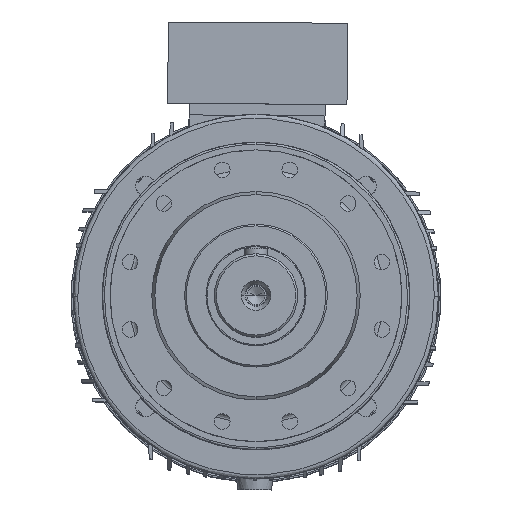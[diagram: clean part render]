
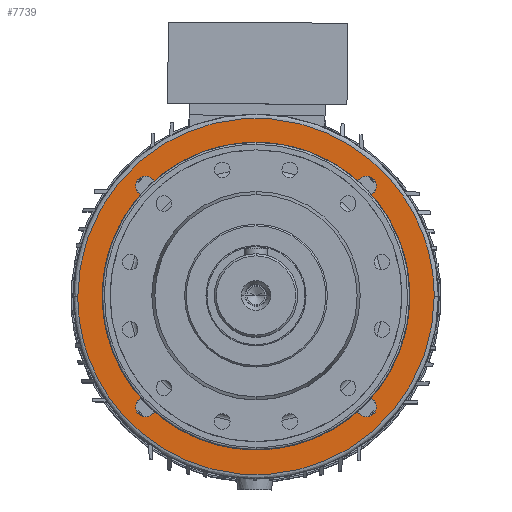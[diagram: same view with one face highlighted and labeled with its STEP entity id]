
A CAD part, top view. The second image highlights one B-rep face of the part: STEP entity #7739.
In plain terms, the highlighted planar face has unit normal (0, 0, 1).
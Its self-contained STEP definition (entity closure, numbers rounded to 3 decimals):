
#2304 = AXIS2_PLACEMENT_3D ( 'NONE', #5251, #5253, #5286 ) ;
#5251 = CARTESIAN_POINT ( 'NONE',  ( 0., 122., -116.5 ) ) ;
#5253 = DIRECTION ( 'NONE',  ( 0., 0., 1. ) ) ;
#5286 = DIRECTION ( 'NONE',  ( 1., 0., 0. ) ) ;
#5288 = PLANE ( 'NONE',  #2304 ) ;
#7739 = ADVANCED_FACE ( 'NONE', ( #73088, #73003, #73068, #73053, #73062, #72971 ), #5288, .T. ) ;
#11274 = AXIS2_PLACEMENT_3D ( 'NONE', #82952, #82940, #83009 ) ;
#11277 = AXIS2_PLACEMENT_3D ( 'NONE', #83300, #83261, #83312 ) ;
#11307 = AXIS2_PLACEMENT_3D ( 'NONE', #74759, #74763, #74764 ) ;
#11316 = AXIS2_PLACEMENT_3D ( 'NONE', #75089, #75091, #75093 ) ;
#13594 = AXIS2_PLACEMENT_3D ( 'NONE', #82843, #82838, #82899 ) ;
#14735 = EDGE_CURVE ( 'NONE', #31682, #31641, #58688, .T. ) ;
#15208 = EDGE_CURVE ( 'NONE', #30986, #31115, #45059, .T. ) ;
#15231 = EDGE_CURVE ( 'NONE', #31030, #31145, #45020, .T. ) ;
#15244 = EDGE_CURVE ( 'NONE', #31183, #31199, #45044, .T. ) ;
#16528 = ORIENTED_EDGE ( 'NONE', *, *, #55473, .T. ) ;
#16539 = ORIENTED_EDGE ( 'NONE', *, *, #15244, .T. ) ;
#16547 = ORIENTED_EDGE ( 'NONE', *, *, #15231, .T. ) ;
#16553 = ORIENTED_EDGE ( 'NONE', *, *, #18489, .T. ) ;
#16558 = ORIENTED_EDGE ( 'NONE', *, *, #15208, .T. ) ;
#16566 = ORIENTED_EDGE ( 'NONE', *, *, #55574, .T. ) ;
#16584 = ORIENTED_EDGE ( 'NONE', *, *, #55468, .F. ) ;
#16590 = ORIENTED_EDGE ( 'NONE', *, *, #55501, .T. ) ;
#16609 = ORIENTED_EDGE ( 'NONE', *, *, #55481, .T. ) ;
#16631 = ORIENTED_EDGE ( 'NONE', *, *, #18388, .T. ) ;
#16689 = ORIENTED_EDGE ( 'NONE', *, *, #14735, .F. ) ;
#16780 = ORIENTED_EDGE ( 'NONE', *, *, #55512, .T. ) ;
#18388 = EDGE_CURVE ( 'NONE', #30970, #31187, #83685, .T. ) ;
#18489 = EDGE_CURVE ( 'NONE', #31052, #31042, #83709, .T. ) ;
#28428 = DIRECTION ( 'NONE',  ( -1., 0., 0. ) ) ;
#28472 = DIRECTION ( 'NONE',  ( 0., 0., -1. ) ) ;
#28504 = CARTESIAN_POINT ( 'NONE',  ( 0., 0., -116.5 ) ) ;
#30970 = VERTEX_POINT ( 'NONE', #51560 ) ;
#30986 = VERTEX_POINT ( 'NONE', #51572 ) ;
#31030 = VERTEX_POINT ( 'NONE', #51597 ) ;
#31042 = VERTEX_POINT ( 'NONE', #51601 ) ;
#31052 = VERTEX_POINT ( 'NONE', #51630 ) ;
#31115 = VERTEX_POINT ( 'NONE', #51671 ) ;
#31145 = VERTEX_POINT ( 'NONE', #51634 ) ;
#31183 = VERTEX_POINT ( 'NONE', #51706 ) ;
#31187 = VERTEX_POINT ( 'NONE', #51711 ) ;
#31199 = VERTEX_POINT ( 'NONE', #51743 ) ;
#31641 = VERTEX_POINT ( 'NONE', #61611 ) ;
#31682 = VERTEX_POINT ( 'NONE', #61693 ) ;
#31740 = CARTESIAN_POINT ( 'NONE',  ( -106.066, 106.066, -116.5 ) ) ;
#31747 = DIRECTION ( 'NONE',  ( 0., 0., -1. ) ) ;
#31815 = DIRECTION ( 'NONE',  ( 0., 1., 0. ) ) ;
#31881 = DIRECTION ( 'NONE',  ( 0., 0., -1. ) ) ;
#31927 = DIRECTION ( 'NONE',  ( -1., 0., 0. ) ) ;
#31944 = CARTESIAN_POINT ( 'NONE',  ( -106.066, -106.066, -116.5 ) ) ;
#31962 = DIRECTION ( 'NONE',  ( -1., 0., 0. ) ) ;
#31983 = DIRECTION ( 'NONE',  ( 0., 0., -1. ) ) ;
#31986 = CARTESIAN_POINT ( 'NONE',  ( 106.066, 106.066, -116.5 ) ) ;
#34393 = EDGE_LOOP ( 'NONE', ( #16590, #16539 ) ) ;
#34423 = EDGE_LOOP ( 'NONE', ( #16553, #16528 ) ) ;
#34451 = EDGE_LOOP ( 'NONE', ( #16566, #16631 ) ) ;
#34455 = EDGE_LOOP ( 'NONE', ( #16780, #16558 ) ) ;
#34529 = EDGE_LOOP ( 'NONE', ( #16609, #16547 ) ) ;
#34549 = EDGE_LOOP ( 'NONE', ( #16689, #16584 ) ) ;
#37867 = AXIS2_PLACEMENT_3D ( 'NONE', #90601, #90582, #90537 ) ;
#37926 = AXIS2_PLACEMENT_3D ( 'NONE', #28504, #28472, #28428 ) ;
#38436 = AXIS2_PLACEMENT_3D ( 'NONE', #31944, #31983, #31962 ) ;
#38473 = AXIS2_PLACEMENT_3D ( 'NONE', #31740, #31747, #31815 ) ;
#38504 = AXIS2_PLACEMENT_3D ( 'NONE', #31986, #31881, #31927 ) ;
#45020 = CIRCLE ( 'NONE', #38436, 9.5 ) ;
#45044 = CIRCLE ( 'NONE', #38504, 9.5 ) ;
#45059 = CIRCLE ( 'NONE', #38473, 9.5 ) ;
#51560 = CARTESIAN_POINT ( 'NONE',  ( 106.066, -115.566, -116.5 ) ) ;
#51572 = CARTESIAN_POINT ( 'NONE',  ( -106.066, 96.566, -116.5 ) ) ;
#51597 = CARTESIAN_POINT ( 'NONE',  ( -96.566, -106.066, -116.5 ) ) ;
#51601 = CARTESIAN_POINT ( 'NONE',  ( 122., 0., -116.5 ) ) ;
#51630 = CARTESIAN_POINT ( 'NONE',  ( -122., 0., -116.5 ) ) ;
#51634 = CARTESIAN_POINT ( 'NONE',  ( -115.566, -106.066, -116.5 ) ) ;
#51671 = CARTESIAN_POINT ( 'NONE',  ( -106.066, 115.566, -116.5 ) ) ;
#51706 = CARTESIAN_POINT ( 'NONE',  ( 115.566, 106.066, -116.5 ) ) ;
#51711 = CARTESIAN_POINT ( 'NONE',  ( 106.066, -96.566, -116.5 ) ) ;
#51743 = CARTESIAN_POINT ( 'NONE',  ( 96.566, 106.066, -116.5 ) ) ;
#55468 = EDGE_CURVE ( 'NONE', #31641, #31682, #59479, .T. ) ;
#55473 = EDGE_CURVE ( 'NONE', #31042, #31052, #88414, .T. ) ;
#55481 = EDGE_CURVE ( 'NONE', #31145, #31030, #88455, .T. ) ;
#55501 = EDGE_CURVE ( 'NONE', #31199, #31183, #88588, .T. ) ;
#55512 = EDGE_CURVE ( 'NONE', #31115, #30986, #88575, .T. ) ;
#55574 = EDGE_CURVE ( 'NONE', #31187, #30970, #88666, .T. ) ;
#58688 =( BOUNDED_CURVE ( )  B_SPLINE_CURVE ( 3, ( #90402, #90380, #90383, #90413 ),
 .UNSPECIFIED., .F., .T. ) 
 B_SPLINE_CURVE_WITH_KNOTS ( ( 4, 4 ),
 ( 0., 0.5 ),
 .UNSPECIFIED. ) 
 CURVE ( )  GEOMETRIC_REPRESENTATION_ITEM ( )  RATIONAL_B_SPLINE_CURVE ( ( 1., 0.333, 0.333, 1. ) ) 
 REPRESENTATION_ITEM ( '' )  );
#59479 =( BOUNDED_CURVE ( )  B_SPLINE_CURVE ( 3, ( #82836, #82834, #82906, #82856 ),
 .UNSPECIFIED., .F., .T. ) 
 B_SPLINE_CURVE_WITH_KNOTS ( ( 4, 4 ),
 ( 0.5, 1. ),
 .UNSPECIFIED. ) 
 CURVE ( )  GEOMETRIC_REPRESENTATION_ITEM ( )  RATIONAL_B_SPLINE_CURVE ( ( 1., 0.333, 0.333, 1. ) ) 
 REPRESENTATION_ITEM ( '' )  );
#61611 = CARTESIAN_POINT ( 'NONE',  ( -171., 0., -116.5 ) ) ;
#61693 = CARTESIAN_POINT ( 'NONE',  ( 171., 0., -116.5 ) ) ;
#72971 = FACE_BOUND ( 'NONE', #34393, .T. ) ;
#73003 = FACE_BOUND ( 'NONE', #34423, .T. ) ;
#73053 = FACE_BOUND ( 'NONE', #34529, .T. ) ;
#73062 = FACE_BOUND ( 'NONE', #34451, .T. ) ;
#73068 = FACE_BOUND ( 'NONE', #34455, .T. ) ;
#73088 = FACE_OUTER_BOUND ( 'NONE', #34549, .T. ) ;
#74759 = CARTESIAN_POINT ( 'NONE',  ( -106.066, 106.066, -116.5 ) ) ;
#74763 = DIRECTION ( 'NONE',  ( 0., 0., -1. ) ) ;
#74764 = DIRECTION ( 'NONE',  ( 0., 1., 0. ) ) ;
#75089 = CARTESIAN_POINT ( 'NONE',  ( 106.066, -106.066, -116.5 ) ) ;
#75091 = DIRECTION ( 'NONE',  ( 0., 0., -1. ) ) ;
#75093 = DIRECTION ( 'NONE',  ( 0., 1., 0. ) ) ;
#82834 = CARTESIAN_POINT ( 'NONE',  ( -171., 342., -116.5 ) ) ;
#82836 = CARTESIAN_POINT ( 'NONE',  ( -171., 0., -116.5 ) ) ;
#82838 = DIRECTION ( 'NONE',  ( 0., 0., -1. ) ) ;
#82843 = CARTESIAN_POINT ( 'NONE',  ( 0., 0., -116.5 ) ) ;
#82856 = CARTESIAN_POINT ( 'NONE',  ( 171., 0., -116.5 ) ) ;
#82899 = DIRECTION ( 'NONE',  ( -1., 0., 0. ) ) ;
#82906 = CARTESIAN_POINT ( 'NONE',  ( 171., 342., -116.5 ) ) ;
#82940 = DIRECTION ( 'NONE',  ( 0., 0., -1. ) ) ;
#82952 = CARTESIAN_POINT ( 'NONE',  ( -106.066, -106.066, -116.5 ) ) ;
#83009 = DIRECTION ( 'NONE',  ( -1., 0., 0. ) ) ;
#83261 = DIRECTION ( 'NONE',  ( 0., 0., -1. ) ) ;
#83300 = CARTESIAN_POINT ( 'NONE',  ( 106.066, 106.066, -116.5 ) ) ;
#83312 = DIRECTION ( 'NONE',  ( -1., 0., 0. ) ) ;
#83685 = CIRCLE ( 'NONE', #37867, 9.5 ) ;
#83709 = CIRCLE ( 'NONE', #37926, 122. ) ;
#88414 = CIRCLE ( 'NONE', #13594, 122. ) ;
#88455 = CIRCLE ( 'NONE', #11274, 9.5 ) ;
#88575 = CIRCLE ( 'NONE', #11307, 9.5 ) ;
#88588 = CIRCLE ( 'NONE', #11277, 9.5 ) ;
#88666 = CIRCLE ( 'NONE', #11316, 9.5 ) ;
#90380 = CARTESIAN_POINT ( 'NONE',  ( 171., -342., -116.5 ) ) ;
#90383 = CARTESIAN_POINT ( 'NONE',  ( -171., -342., -116.5 ) ) ;
#90402 = CARTESIAN_POINT ( 'NONE',  ( 171., 0., -116.5 ) ) ;
#90413 = CARTESIAN_POINT ( 'NONE',  ( -171., 0., -116.5 ) ) ;
#90537 = DIRECTION ( 'NONE',  ( 0., 1., 0. ) ) ;
#90582 = DIRECTION ( 'NONE',  ( 0., 0., -1. ) ) ;
#90601 = CARTESIAN_POINT ( 'NONE',  ( 106.066, -106.066, -116.5 ) ) ;
